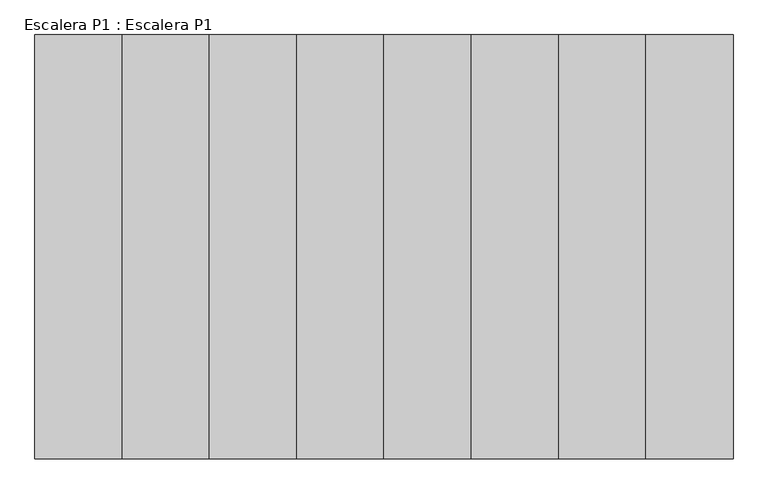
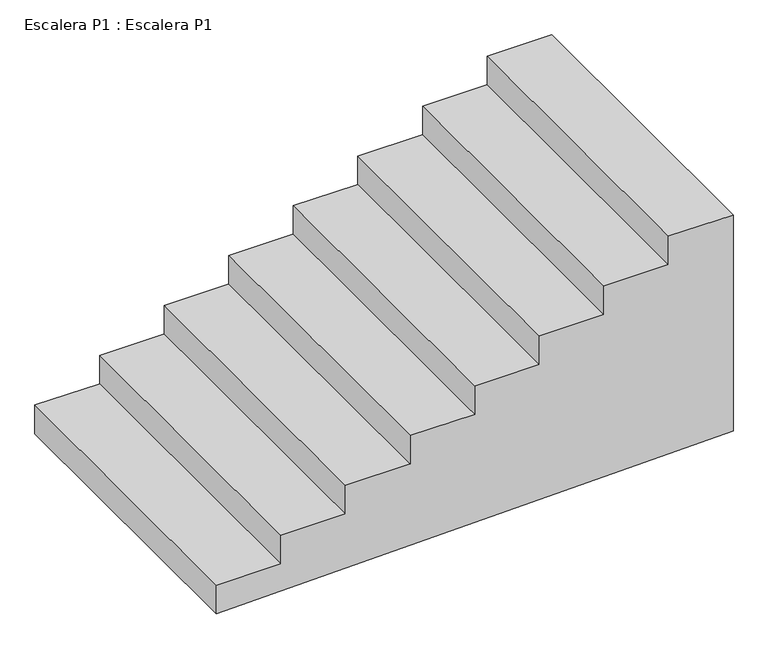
"""IFC4 building model written with IfcOpenShell, lengths in millimetres: stair geometry, Escalera P1 : Escalera P1."""

from ifc_helpers import new_model, si_unit, frame, origin, place, context, project, spatial, polyline, outline, extrude, source, transform, mapped, element, save


def escalera_p1_escalera_p1_af88919a(model_context):
    return source(origin(), model_context, "Body", "SweptSolid", [
        extrude(outline(polyline([(-1126.9281195, 23386.3939906), (-1126.9281195, 23086.3939906), (-1268.1056519, 23086.3939906), (-1209.4631075, 25486.4363125), (-148.0481195, 25486.4363125), (-148.0481195, 25186.3939906), (-287.8881195, 25186.3939906), (-287.8881195, 24886.3939906), (-427.7281195, 24886.3939906), (-427.7281195, 24586.3939906), (-567.5681195, 24586.3939906), (-567.5681195, 24286.3939906), (-707.4081195, 24286.3939906), (-707.4081195, 23986.3939906), (-847.2481195, 23986.3939906), (-847.2481195, 23686.3939906), (-987.0881195, 23686.3939906), (-987.0881195, 23386.3939906), (-1126.9281195, 23386.3939906)])), frame((0.0, -28660.493098, 0.0), z_axis=(0.0, 1.0, 0.0), x_axis=(0.0, 0.0, 1.0)), (0.0, 0.0, 1.0), 1458.9490981),
    ])


if __name__ == "__main__":
    model = new_model("IFC4")
    model_context = context("Model", 3, world=origin())
    ifc_project = project(units=[si_unit("LENGTHUNIT", "METRE", prefix="MILLI")], contexts=[model_context])
    site = spatial("IfcSite", under=ifc_project)
    building = spatial("IfcBuilding", under=site)
    placement = place(None, origin())
    escalera_p1_escalera_p1_shape = escalera_p1_escalera_p1_af88919a(model_context)
    element("IfcStair", 1, ObjectType="Escalera P1 : Escalera P1", at=placement, inside=building, context=model_context, shape_type="MappedRepresentation", body=[
        mapped(escalera_p1_escalera_p1_shape, transform((0.0, 0.0, 0.0), x_axis=(1.0, 0.0, 0.0), y_axis=(0.0, 1.0, 0.0), z_axis=(0.0, 0.0, 1.0))),
    ])
    save(model, "model.ifc")
